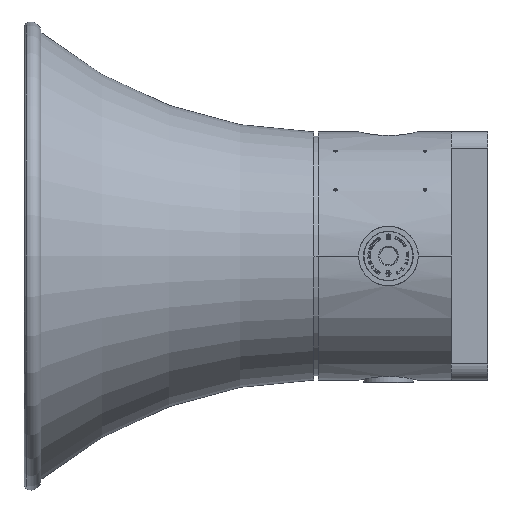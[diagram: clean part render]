
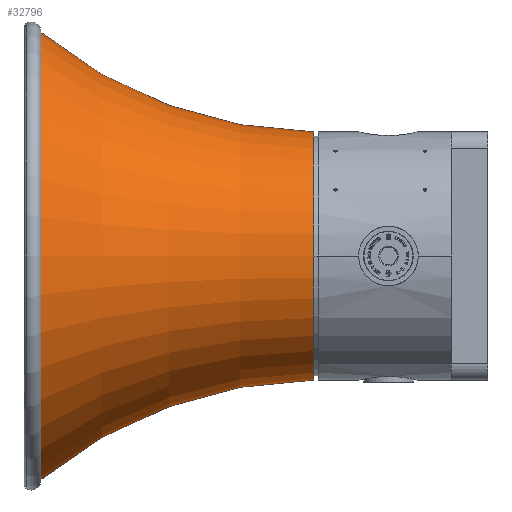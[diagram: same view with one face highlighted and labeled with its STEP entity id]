
A CAD part, left-side view. The second image highlights one B-rep face of the part: STEP entity #32796.
In plain terms, the highlighted toroidal (fillet/blend) face has major radius 340.879 mm and minor radius 265.9 mm.
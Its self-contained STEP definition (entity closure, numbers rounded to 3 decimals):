
#22742=CARTESIAN_POINT('',(0.,0.,-186.91));
#22743=DIRECTION('',(0.,0.,-1.));
#22744=DIRECTION('',(0.,-1.,0.));
#22745=AXIS2_PLACEMENT_3D('',#22742,#22743,#22744);
#25075=CARTESIAN_POINT('',(0.,-340.879,
-18.634));
#25076=DIRECTION('',(-1.,0.,0.));
#25077=DIRECTION('',(0.,1.,-0.013));
#25078=AXIS2_PLACEMENT_3D('',#25075,#25076,#25077);
#25080=CARTESIAN_POINT('',(0.,340.879,
-18.634));
#25081=DIRECTION('',(1.,0.,0.));
#25082=DIRECTION('',(0.,-1.,-0.013));
#25083=AXIS2_PLACEMENT_3D('',#25080,#25081,#25082);
#25085=CARTESIAN_POINT('',(0.,0.,-22.));
#25086=DIRECTION('',(0.,0.,-1.));
#25087=DIRECTION('',(0.,-1.,0.));
#25088=AXIS2_PLACEMENT_3D('',#25085,#25086,#25087);
#29017=CARTESIAN_POINT('',(0.,-135.,-186.91));
#29019=VERTEX_POINT('',#29017);
#29037=CARTESIAN_POINT('',(0.,-75.,-22.));
#29038=VERTEX_POINT('',#29037);
#29039=CARTESIAN_POINT('',(0.,135.,-186.91));
#29041=VERTEX_POINT('',#29039);
#29059=CARTESIAN_POINT('',(0.,75.,-22.));
#29060=VERTEX_POINT('',#29059);
#32785=CARTESIAN_POINT('',(0.,0.,-18.634));
#32786=DIRECTION('',(0.,0.,1.));
#32787=DIRECTION('',(0.,1.,0.));
#32788=AXIS2_PLACEMENT_3D('',#32785,#32786,#32787);
#32789=TOROIDAL_SURFACE('',#32788,340.879,265.9);
#32790=ORIENTED_EDGE('',*,*,#32776,.T.);
#32791=ORIENTED_EDGE('',*,*,#30976,.T.);
#32792=ORIENTED_EDGE('',*,*,#32779,.F.);
#32793=ORIENTED_EDGE('',*,*,#32726,.F.);
#32794=EDGE_LOOP('',(#32790,#32791,#32792,#32793));
#32795=FACE_OUTER_BOUND('',#32794,.F.);
#32796=ADVANCED_FACE('',(#32795),#32789,.F.);
#22746=CIRCLE('',#22745,135.);
#25079=CIRCLE('',#25078,265.9);
#25084=CIRCLE('',#25083,265.9);
#25089=CIRCLE('',#25088,75.);
#30976=EDGE_CURVE('',#29019,#29041,#22746,.T.);
#32726=EDGE_CURVE('',#29038,#29060,#25089,.T.);
#32776=EDGE_CURVE('',#29038,#29019,#25079,.T.);
#32779=EDGE_CURVE('',#29060,#29041,#25084,.T.);
